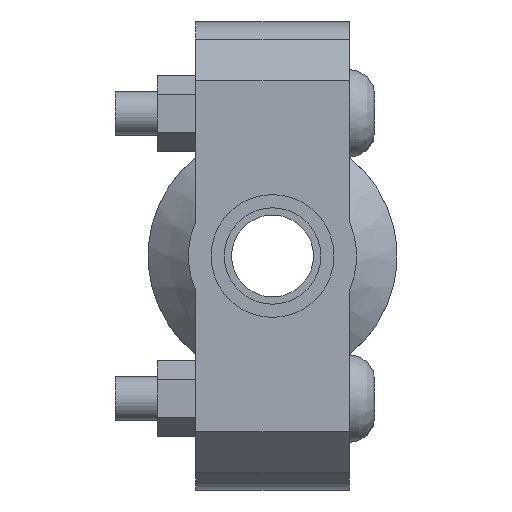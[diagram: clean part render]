
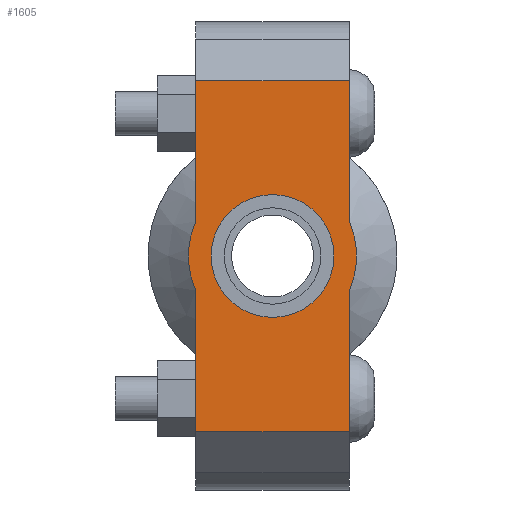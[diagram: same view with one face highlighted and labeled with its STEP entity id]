
A CAD part, left-side view. The second image highlights one B-rep face of the part: STEP entity #1605.
In plain terms, the highlighted planar face has unit normal (-1, 0, 0) as drawn and (0, 0, 1) by its records, which use the part's own axes.
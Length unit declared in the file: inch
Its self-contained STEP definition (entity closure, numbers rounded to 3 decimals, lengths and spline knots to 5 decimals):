
#160=LINE('',#2775,#257);
#175=LINE('',#2834,#272);
#183=LINE('',#2864,#280);
#185=LINE('',#2867,#282);
#186=LINE('',#2872,#283);
#187=LINE('',#2873,#284);
#257=VECTOR('',#2259,0.3937);
#272=VECTOR('',#2294,0.3937);
#280=VECTOR('',#2314,0.3937);
#282=VECTOR('',#2318,0.3937);
#283=VECTOR('',#2323,0.3937);
#284=VECTOR('',#2324,0.3937);
#348=FACE_BOUND('',#525,.T.);
#416=FACE_OUTER_BOUND('',#524,.T.);
#524=EDGE_LOOP('',(#1306,#1307,#1308,#1309,#1310,#1311,#1312,#1313));
#525=EDGE_LOOP('',(#1314));
#607=CIRCLE('',#1833,0.525);
#631=CIRCLE('',#1885,0.719);
#632=CIRCLE('',#1886,0.719);
#703=VERTEX_POINT('',#2601);
#744=VERTEX_POINT('',#2772);
#745=VERTEX_POINT('',#2774);
#766=VERTEX_POINT('',#2829);
#767=VERTEX_POINT('',#2833);
#776=VERTEX_POINT('',#2859);
#777=VERTEX_POINT('',#2863);
#778=VERTEX_POINT('',#2869);
#779=VERTEX_POINT('',#2871);
#867=EDGE_CURVE('',#703,#703,#607,.T.);
#924=EDGE_CURVE('',#745,#744,#160,.T.);
#949=EDGE_CURVE('',#767,#766,#175,.T.);
#962=EDGE_CURVE('',#777,#776,#183,.T.);
#964=EDGE_CURVE('',#777,#744,#185,.T.);
#965=EDGE_CURVE('',#776,#778,#631,.T.);
#966=EDGE_CURVE('',#778,#779,#186,.T.);
#967=EDGE_CURVE('',#767,#779,#187,.T.);
#968=EDGE_CURVE('',#766,#745,#632,.T.);
#1306=ORIENTED_EDGE('',*,*,#964,.F.);
#1307=ORIENTED_EDGE('',*,*,#962,.T.);
#1308=ORIENTED_EDGE('',*,*,#965,.T.);
#1309=ORIENTED_EDGE('',*,*,#966,.T.);
#1310=ORIENTED_EDGE('',*,*,#967,.F.);
#1311=ORIENTED_EDGE('',*,*,#949,.T.);
#1312=ORIENTED_EDGE('',*,*,#968,.T.);
#1313=ORIENTED_EDGE('',*,*,#924,.T.);
#1314=ORIENTED_EDGE('',*,*,#867,.T.);
#1445=PLANE('',#1884);
#1605=ADVANCED_FACE('',(#416,#348),#1445,.T.);
#1833=AXIS2_PLACEMENT_3D('',#2603,#2149,#2150);
#1884=AXIS2_PLACEMENT_3D('',#2868,#2319,#2320);
#1885=AXIS2_PLACEMENT_3D('',#2870,#2321,#2322);
#1886=AXIS2_PLACEMENT_3D('',#2874,#2325,#2326);
#2149=DIRECTION('center_axis',(0.,0.,-1.));
#2150=DIRECTION('ref_axis',(-1.,0.,0.));
#2259=DIRECTION('',(-1.,0.,0.));
#2294=DIRECTION('',(-1.,0.,0.));
#2314=DIRECTION('',(1.,0.,0.));
#2318=DIRECTION('',(0.,1.,0.));
#2319=DIRECTION('center_axis',(0.,0.,1.));
#2320=DIRECTION('ref_axis',(1.,0.,0.));
#2321=DIRECTION('center_axis',(0.,0.,1.));
#2322=DIRECTION('ref_axis',(-1.,0.,0.));
#2323=DIRECTION('',(1.,0.,0.));
#2324=DIRECTION('',(0.,-1.,0.));
#2325=DIRECTION('center_axis',(0.,0.,1.));
#2326=DIRECTION('ref_axis',(-1.,0.,0.));
#2601=CARTESIAN_POINT('',(0.525,0.,0.875));
#2603=CARTESIAN_POINT('Origin',(0.,0.,0.875));
#2772=CARTESIAN_POINT('',(-1.5,0.656,0.875));
#2774=CARTESIAN_POINT('',(-0.29432,0.656,0.875));
#2775=CARTESIAN_POINT('',(2.,0.656,0.875));
#2829=CARTESIAN_POINT('',(0.29432,0.656,0.875));
#2833=CARTESIAN_POINT('',(1.5,0.656,0.875));
#2834=CARTESIAN_POINT('',(2.,0.656,0.875));
#2859=CARTESIAN_POINT('',(-0.29432,-0.656,0.875));
#2863=CARTESIAN_POINT('',(-1.5,-0.656,0.875));
#2864=CARTESIAN_POINT('',(-2.,-0.656,0.875));
#2867=CARTESIAN_POINT('',(-1.5,0.328,0.875));
#2868=CARTESIAN_POINT('Origin',(0.,0.,
0.875));
#2869=CARTESIAN_POINT('',(0.29432,-0.656,0.875));
#2870=CARTESIAN_POINT('Origin',(0.,0.,0.875));
#2871=CARTESIAN_POINT('',(1.5,-0.656,0.875));
#2872=CARTESIAN_POINT('',(-2.,-0.656,0.875));
#2873=CARTESIAN_POINT('',(1.5,-0.328,0.875));
#2874=CARTESIAN_POINT('Origin',(0.,0.,0.875));
